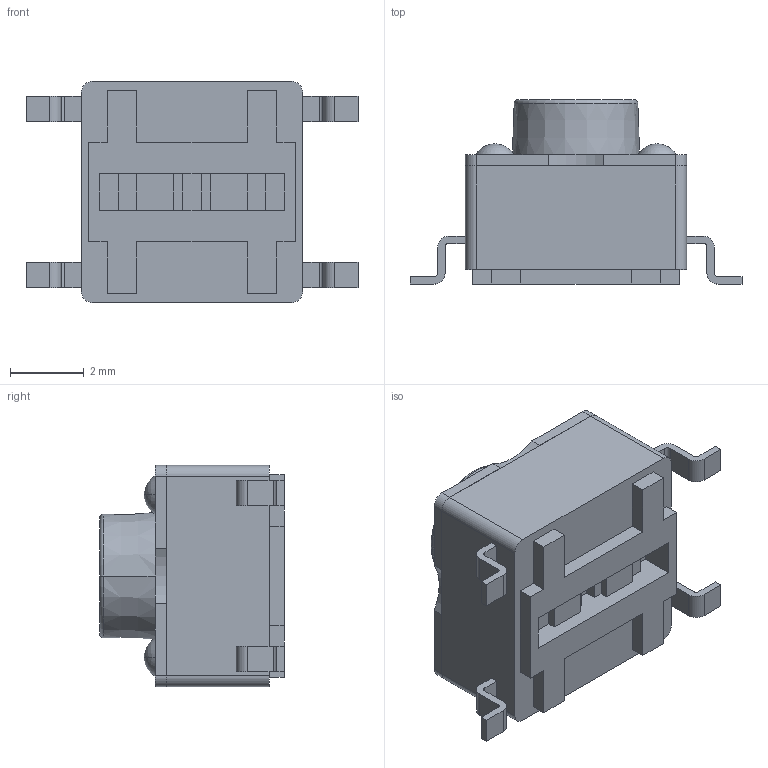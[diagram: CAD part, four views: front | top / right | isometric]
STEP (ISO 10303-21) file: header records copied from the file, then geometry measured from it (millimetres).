
FILE_DESCRIPTION((''),'2;1');
FILE_NAME('TSS-62K_ASM','2017-01-16T',('Administrator'),(''),'PRO/ENGINEER BY PARAMETRIC TECHNOLOGY CORPORATION, 2010370','PRO/ENGINEER BY PARAMETRIC TECHNOLOGY CORPORATION, 2010370','');
FILE_SCHEMA(('CONFIG_CONTROL_DESIGN'));
Length unit declared in the file: millimetre
Products named in the file (4): 11-80606_3_; 11-80610_5_; PRT0038; TSS-62K_ASM
Assembly tree (3 placements, depth 2):
  TSS-62K_ASM
    11-80606_3_
    11-80610_5_
    PRT0038
Bounding box: 9 x 5 x 6 mm (x, y, z)
Volume: 95.8 mm3; surface area: 331.3 mm2
Topology: 3 solids, 3 shells, 175 faces, 472 edges, 312 vertices
Faces by surface type: plane 109, cylinder 52, sphere 8, cone 4, torus 2
Entity records: 5588 total; most frequent: DIRECTION 966, CARTESIAN_POINT 958, ORIENTED_EDGE 928, EDGE_CURVE 464, VECTOR 326, LINE 326, AXIS2_PLACEMENT_3D 320, VERTEX_POINT 312
